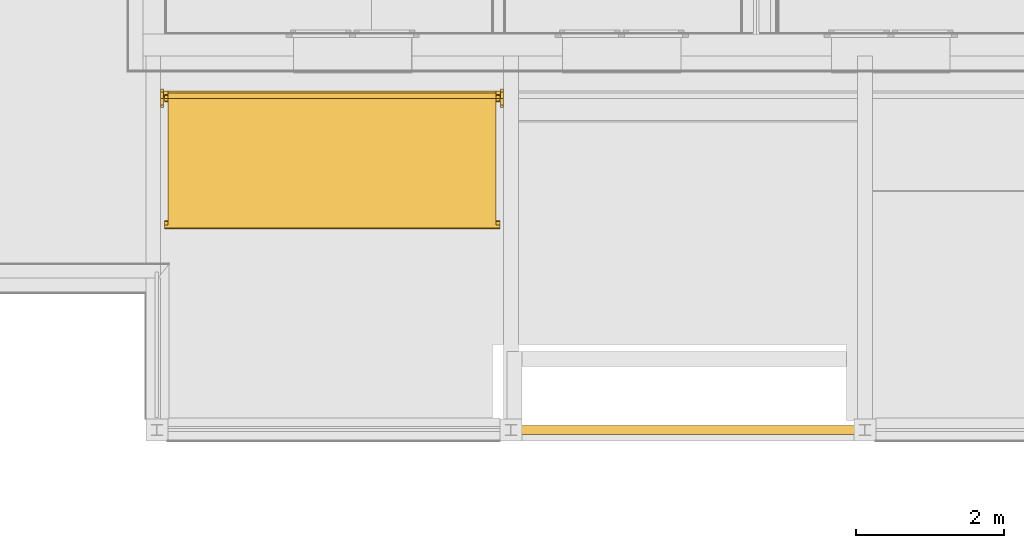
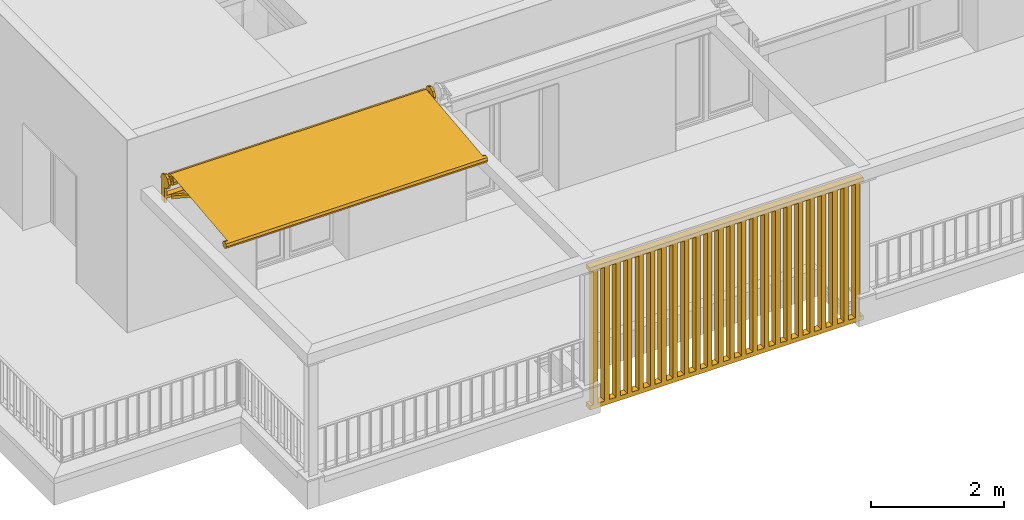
# One storey, part 22 of 36: 1 railing, 1 shading device.
"""IFC4 building model written with IfcOpenShell, lengths in millimetres."""

from ifc_helpers import new_model, entity, si_unit, converted_unit, derived_unit, direction, frame, origin_with_axes, place, context, subcontext, project, spatial, polygons, material, constituent, constituent_set, type_object, element, save


model = new_model("IFC4")

# Units and contexts
model_context = context("Model", 3, precision=0.01, world=origin_with_axes(), true_north=direction((0.0, 1.0)))
body_context = subcontext(model_context, "Body", "Model", "MODEL_VIEW")
ifc_project = project(units=[si_unit("LENGTHUNIT", "METRE", prefix="MILLI"), si_unit("AREAUNIT", "SQUARE_METRE"), si_unit("VOLUMEUNIT", "CUBIC_METRE"), converted_unit("PLANEANGLEUNIT", "DEGREE", entity("IfcPlaneAngleMeasure", 0.0174532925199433), si_unit("PLANEANGLEUNIT", "RADIAN"), dimensions=[0, 0, 0, 0, 0, 0, 0]), converted_unit("TIMEUNIT", "Year", entity("IfcTimeMeasure", 31557600.0), si_unit("TIMEUNIT", "SECOND"), dimensions=[0, 0, 1, 0, 0, 0, 0]), si_unit("MASSUNIT", "GRAM", prefix="KILO"), si_unit("THERMODYNAMICTEMPERATUREUNIT", "DEGREE_CELSIUS"), si_unit("LUMINOUSINTENSITYUNIT", "LUMEN"), si_unit("ENERGYUNIT", "JOULE", prefix="MEGA"), derived_unit("THERMALCONDUCTANCEUNIT", [(si_unit("POWERUNIT", "WATT"), 1), (si_unit("LENGTHUNIT", "METRE"), -1), (si_unit("THERMODYNAMICTEMPERATUREUNIT", "KELVIN"), -1)]), derived_unit("SPECIFICHEATCAPACITYUNIT", [(si_unit("ENERGYUNIT", "JOULE"), 1), (si_unit("MASSUNIT", "GRAM", prefix="KILO"), -1), (si_unit("THERMODYNAMICTEMPERATUREUNIT", "KELVIN"), -1)]), derived_unit("MASSDENSITYUNIT", [(si_unit("MASSUNIT", "GRAM", prefix="KILO"), 1), (si_unit("VOLUMEUNIT", "CUBIC_METRE"), -1)])], contexts=[model_context])

# Site, building, storey
site_placement = place(None, origin_with_axes())
site = spatial("IfcSite", under=ifc_project, at=site_placement, Name="Gelände", CompositionType="ELEMENT")
building_placement = place(site_placement, origin_with_axes())
building = spatial("IfcBuilding", under=site, at=building_placement, Name="Gebäude", CompositionType="ELEMENT")
storey_placement = place(building_placement, frame((0.0, 0.0, 8700.0), z_axis=(0.0, 0.0, 1.0), x_axis=(1.0, 0.0, 0.0)))
storey = spatial("IfcBuildingStorey", under=building, at=storey_placement, Name="Attika", CompositionType="ELEMENT", Elevation=8700.0)

# Railing
ifc_material = material(Name="Vollholzwerkstoff")
ifc_constituent_1 = constituent(ifc_material, Name="Vollholzwerkstoff 1")
ifc_constituent_2 = constituent(ifc_material, Name="Vollholzwerkstoff 2")
ifc_constituent_3 = constituent(ifc_material, Name="Vollholzwerkstoff 3")
ifc_constituent_4 = constituent(ifc_material, Name="Vollholzwerkstoff 4")
ifc_constituent_5 = constituent(ifc_material, Name="Vollholzwerkstoff 5")
ifc_constituent_6 = constituent(ifc_material, Name="Vollholzwerkstoff 6")
ifc_constituent_7 = constituent(ifc_material, Name="Vollholzwerkstoff 7")
ifc_constituent_8 = constituent(ifc_material, Name="Vollholzwerkstoff 8")
ifc_constituent_9 = constituent(ifc_material, Name="Vollholzwerkstoff 9")
ifc_constituent_10 = constituent(ifc_material, Name="Vollholzwerkstoff 10")
ifc_constituent_11 = constituent(ifc_material, Name="Vollholzwerkstoff 11")
ifc_constituent_12 = constituent(ifc_material, Name="Vollholzwerkstoff 12")
ifc_constituent_13 = constituent(ifc_material, Name="Vollholzwerkstoff 13")
ifc_constituent_14 = constituent(ifc_material, Name="Vollholzwerkstoff 14")
ifc_constituent_15 = constituent(ifc_material, Name="Vollholzwerkstoff 15")
ifc_constituent_16 = constituent(ifc_material, Name="Vollholzwerkstoff 16")
ifc_constituent_17 = constituent(ifc_material, Name="Vollholzwerkstoff 17")
ifc_constituent_18 = constituent(ifc_material, Name="Vollholzwerkstoff 18")
ifc_constituent_19 = constituent(ifc_material, Name="Vollholzwerkstoff 19")
ifc_constituent_20 = constituent(ifc_material, Name="Vollholzwerkstoff 20")
ifc_constituent_21 = constituent(ifc_material, Name="Vollholzwerkstoff 21")
ifc_constituent_22 = constituent(ifc_material, Name="Vollholzwerkstoff 22")
ifc_constituent_23 = constituent(ifc_material, Name="Vollholzwerkstoff 23")
ifc_constituent_24 = constituent(ifc_material, Name="Vollholzwerkstoff 24")
ifc_constituent_25 = constituent(ifc_material, Name="Vollholzwerkstoff 25")
ifc_constituent_26 = constituent(ifc_material, Name="Vollholzwerkstoff 26")
ifc_constituent_set = constituent_set(constituents=[ifc_constituent_1, ifc_constituent_2, ifc_constituent_3, ifc_constituent_4, ifc_constituent_5, ifc_constituent_6, ifc_constituent_7, ifc_constituent_8, ifc_constituent_9, ifc_constituent_10, ifc_constituent_11, ifc_constituent_12, ifc_constituent_13, ifc_constituent_14, ifc_constituent_15, ifc_constituent_16, ifc_constituent_17, ifc_constituent_18, ifc_constituent_19, ifc_constituent_20, ifc_constituent_21, ifc_constituent_22, ifc_constituent_23, ifc_constituent_24, ifc_constituent_25, ifc_constituent_26])
railing_type = type_object("IfcRailingType", Name="Geländerart", PredefinedType="NOTDEFINED")
railing_placement = place(storey_placement, frame((996.5363564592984, 21097.59674077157, 74.99999999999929), z_axis=(0.0, 0.0, 1.0), x_axis=(1.0, 0.0, 0.0)))
element("IfcRailing", 1, at=railing_placement, inside=storey, type_object=railing_type, material=ifc_constituent_set, Name="Geländer-001", PredefinedType="NOTDEFINED", context=body_context, shape_type="Tessellation", body=[
    polygons([(139.0594620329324, -59.99999999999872, 2574.999999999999), (139.0594620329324, -59.99999999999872, 2494.999999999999), (4889.859462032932, -59.99999999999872, 2494.999999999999), (4889.859462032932, -59.99999999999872, 2574.999999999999), (139.0594620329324, 59.99999999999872, 2574.999999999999), (139.0594620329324, 59.99999999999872, 2494.999999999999), (4889.859462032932, 59.99999999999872, 2494.999999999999), (4889.859462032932, 59.99999999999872, 2574.999999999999)], [[[1, 2, 3, 4]], [[1, 5, 6, 2]], [[2, 6, 7, 3]], [[4, 3, 7, 8]], [[5, 1, 4, 8]], [[6, 5, 8, 7]]], closed=True),
    polygons([(139.0594620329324, -59.99999999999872, 39.99999999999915), (139.0594620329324, -59.99999999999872, -39.99999999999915), (4889.859462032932, -59.99999999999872, -39.99999999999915), (4889.859462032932, -59.99999999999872, 39.99999999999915), (139.0594620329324, 59.99999999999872, 39.99999999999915), (139.0594620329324, 59.99999999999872, -39.99999999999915), (4889.859462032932, 59.99999999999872, -39.99999999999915), (4889.859462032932, 59.99999999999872, 39.99999999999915)], [[[1, 2, 3, 4]], [[1, 5, 6, 2]], [[2, 6, 7, 3]], [[4, 3, 7, 8]], [[5, 1, 4, 8]], [[6, 5, 8, 7]]], closed=True),
    polygons([(277.0914620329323, -59.99999999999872, 39.99999999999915), (277.0914620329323, 59.99999999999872, 39.99999999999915), (277.0914620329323, 59.99999999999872, 2494.999999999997), (277.0914620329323, -59.99999999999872, 2494.999999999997), (197.0914620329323, -59.99999999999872, 39.99999999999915), (197.0914620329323, 59.99999999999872, 39.99999999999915), (197.0914620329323, 59.99999999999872, 2494.999999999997), (197.0914620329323, -59.99999999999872, 2494.999999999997)], [[[1, 2, 3, 4]], [[1, 5, 6, 2]], [[2, 6, 7, 3]], [[4, 3, 7, 8]], [[5, 1, 4, 8]], [[6, 5, 8, 7]]], closed=True),
    polygons([(475.1234620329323, -59.99999999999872, 39.99999999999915), (475.1234620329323, 59.99999999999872, 39.99999999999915), (475.1234620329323, 59.99999999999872, 2494.999999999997), (475.1234620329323, -59.99999999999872, 2494.999999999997), (395.1234620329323, -59.99999999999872, 39.99999999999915), (395.1234620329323, 59.99999999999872, 39.99999999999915), (395.1234620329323, 59.99999999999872, 2494.999999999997), (395.1234620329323, -59.99999999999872, 2494.999999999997)], [[[1, 2, 3, 4]], [[1, 5, 6, 2]], [[2, 6, 7, 3]], [[4, 3, 7, 8]], [[5, 1, 4, 8]], [[6, 5, 8, 7]]], closed=True),
    polygons([(673.1554620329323, -59.99999999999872, 39.99999999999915), (673.1554620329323, 59.99999999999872, 39.99999999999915), (673.1554620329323, 59.99999999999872, 2494.999999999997), (673.1554620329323, -59.99999999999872, 2494.999999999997), (593.1554620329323, -59.99999999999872, 39.99999999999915), (593.1554620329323, 59.99999999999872, 39.99999999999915), (593.1554620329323, 59.99999999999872, 2494.999999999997), (593.1554620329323, -59.99999999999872, 2494.999999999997)], [[[1, 2, 3, 4]], [[1, 5, 6, 2]], [[2, 6, 7, 3]], [[4, 3, 7, 8]], [[5, 1, 4, 8]], [[6, 5, 8, 7]]], closed=True),
    polygons([(871.1874620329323, -59.99999999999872, 39.99999999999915), (871.1874620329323, 59.99999999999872, 39.99999999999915), (871.1874620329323, 59.99999999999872, 2494.999999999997), (871.1874620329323, -59.99999999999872, 2494.999999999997), (791.1874620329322, -59.99999999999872, 39.99999999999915), (791.1874620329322, 59.99999999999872, 39.99999999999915), (791.1874620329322, 59.99999999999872, 2494.999999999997), (791.1874620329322, -59.99999999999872, 2494.999999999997)], [[[1, 2, 3, 4]], [[1, 5, 6, 2]], [[2, 6, 7, 3]], [[4, 3, 7, 8]], [[5, 1, 4, 8]], [[6, 5, 8, 7]]], closed=True),
    polygons([(1069.219462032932, -59.99999999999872, 39.99999999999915), (1069.219462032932, 59.99999999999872, 39.99999999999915), (1069.219462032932, 59.99999999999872, 2494.999999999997), (1069.219462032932, -59.99999999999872, 2494.999999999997), (989.2194620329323, -59.99999999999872, 39.99999999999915), (989.2194620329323, 59.99999999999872, 39.99999999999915), (989.2194620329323, 59.99999999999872, 2494.999999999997), (989.2194620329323, -59.99999999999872, 2494.999999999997)], [[[1, 2, 3, 4]], [[1, 5, 6, 2]], [[2, 6, 7, 3]], [[4, 3, 7, 8]], [[5, 1, 4, 8]], [[6, 5, 8, 7]]], closed=True),
    polygons([(1267.251462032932, -59.99999999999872, 39.99999999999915), (1267.251462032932, 59.99999999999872, 39.99999999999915), (1267.251462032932, 59.99999999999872, 2494.999999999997), (1267.251462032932, -59.99999999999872, 2494.999999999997), (1187.251462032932, -59.99999999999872, 39.99999999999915), (1187.251462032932, 59.99999999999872, 39.99999999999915), (1187.251462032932, 59.99999999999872, 2494.999999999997), (1187.251462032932, -59.99999999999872, 2494.999999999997)], [[[1, 2, 3, 4]], [[1, 5, 6, 2]], [[2, 6, 7, 3]], [[4, 3, 7, 8]], [[5, 1, 4, 8]], [[6, 5, 8, 7]]], closed=True),
    polygons([(1465.283462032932, -59.99999999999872, 39.99999999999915), (1465.283462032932, 59.99999999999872, 39.99999999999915), (1465.283462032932, 59.99999999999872, 2494.999999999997), (1465.283462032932, -59.99999999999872, 2494.999999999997), (1385.283462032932, -59.99999999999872, 39.99999999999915), (1385.283462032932, 59.99999999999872, 39.99999999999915), (1385.283462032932, 59.99999999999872, 2494.999999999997), (1385.283462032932, -59.99999999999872, 2494.999999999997)], [[[1, 2, 3, 4]], [[1, 5, 6, 2]], [[2, 6, 7, 3]], [[4, 3, 7, 8]], [[5, 1, 4, 8]], [[6, 5, 8, 7]]], closed=True),
    polygons([(1663.315462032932, -59.99999999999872, 39.99999999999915), (1663.315462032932, 59.99999999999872, 39.99999999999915), (1663.315462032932, 59.99999999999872, 2494.999999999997), (1663.315462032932, -59.99999999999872, 2494.999999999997), (1583.315462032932, -59.99999999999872, 39.99999999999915), (1583.315462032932, 59.99999999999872, 39.99999999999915), (1583.315462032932, 59.99999999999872, 2494.999999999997), (1583.315462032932, -59.99999999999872, 2494.999999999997)], [[[1, 2, 3, 4]], [[1, 5, 6, 2]], [[2, 6, 7, 3]], [[4, 3, 7, 8]], [[5, 1, 4, 8]], [[6, 5, 8, 7]]], closed=True),
    polygons([(1861.347462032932, -59.99999999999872, 39.99999999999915), (1861.347462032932, 59.99999999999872, 39.99999999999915), (1861.347462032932, 59.99999999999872, 2494.999999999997), (1861.347462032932, -59.99999999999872, 2494.999999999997), (1781.347462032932, -59.99999999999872, 39.99999999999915), (1781.347462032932, 59.99999999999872, 39.99999999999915), (1781.347462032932, 59.99999999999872, 2494.999999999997), (1781.347462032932, -59.99999999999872, 2494.999999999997)], [[[1, 2, 3, 4]], [[1, 5, 6, 2]], [[2, 6, 7, 3]], [[4, 3, 7, 8]], [[5, 1, 4, 8]], [[6, 5, 8, 7]]], closed=True),
    polygons([(2059.379462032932, -59.99999999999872, 39.99999999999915), (2059.379462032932, 59.99999999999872, 39.99999999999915), (2059.379462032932, 59.99999999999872, 2494.999999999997), (2059.379462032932, -59.99999999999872, 2494.999999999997), (1979.379462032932, -59.99999999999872, 39.99999999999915), (1979.379462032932, 59.99999999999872, 39.99999999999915), (1979.379462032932, 59.99999999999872, 2494.999999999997), (1979.379462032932, -59.99999999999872, 2494.999999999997)], [[[1, 2, 3, 4]], [[1, 5, 6, 2]], [[2, 6, 7, 3]], [[4, 3, 7, 8]], [[5, 1, 4, 8]], [[6, 5, 8, 7]]], closed=True),
    polygons([(2257.411462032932, -59.99999999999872, 39.99999999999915), (2257.411462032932, 59.99999999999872, 39.99999999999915), (2257.411462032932, 59.99999999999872, 2494.999999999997), (2257.411462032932, -59.99999999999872, 2494.999999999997), (2177.411462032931, -59.99999999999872, 39.99999999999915), (2177.411462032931, 59.99999999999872, 39.99999999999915), (2177.411462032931, 59.99999999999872, 2494.999999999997), (2177.411462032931, -59.99999999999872, 2494.999999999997)], [[[1, 2, 3, 4]], [[1, 5, 6, 2]], [[2, 6, 7, 3]], [[4, 3, 7, 8]], [[5, 1, 4, 8]], [[6, 5, 8, 7]]], closed=True),
    polygons([(2455.443462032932, -59.99999999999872, 39.99999999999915), (2455.443462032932, 59.99999999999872, 39.99999999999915), (2455.443462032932, 59.99999999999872, 2494.999999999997), (2455.443462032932, -59.99999999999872, 2494.999999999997), (2375.443462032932, -59.99999999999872, 39.99999999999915), (2375.443462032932, 59.99999999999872, 39.99999999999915), (2375.443462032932, 59.99999999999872, 2494.999999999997), (2375.443462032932, -59.99999999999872, 2494.999999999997)], [[[1, 2, 3, 4]], [[1, 5, 6, 2]], [[2, 6, 7, 3]], [[4, 3, 7, 8]], [[5, 1, 4, 8]], [[6, 5, 8, 7]]], closed=True),
    polygons([(2653.475462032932, -59.99999999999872, 39.99999999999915), (2653.475462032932, 59.99999999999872, 39.99999999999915), (2653.475462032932, 59.99999999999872, 2494.999999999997), (2653.475462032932, -59.99999999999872, 2494.999999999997), (2573.475462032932, -59.99999999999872, 39.99999999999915), (2573.475462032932, 59.99999999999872, 39.99999999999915), (2573.475462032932, 59.99999999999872, 2494.999999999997), (2573.475462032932, -59.99999999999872, 2494.999999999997)], [[[1, 2, 3, 4]], [[1, 5, 6, 2]], [[2, 6, 7, 3]], [[4, 3, 7, 8]], [[5, 1, 4, 8]], [[6, 5, 8, 7]]], closed=True),
    polygons([(2851.507462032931, -59.99999999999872, 39.99999999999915), (2851.507462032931, 59.99999999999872, 39.99999999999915), (2851.507462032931, 59.99999999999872, 2494.999999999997), (2851.507462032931, -59.99999999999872, 2494.999999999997), (2771.507462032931, -59.99999999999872, 39.99999999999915), (2771.507462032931, 59.99999999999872, 39.99999999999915), (2771.507462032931, 59.99999999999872, 2494.999999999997), (2771.507462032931, -59.99999999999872, 2494.999999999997)], [[[1, 2, 3, 4]], [[1, 5, 6, 2]], [[2, 6, 7, 3]], [[4, 3, 7, 8]], [[5, 1, 4, 8]], [[6, 5, 8, 7]]], closed=True),
    polygons([(3049.539462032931, -59.99999999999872, 39.99999999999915), (3049.539462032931, 59.99999999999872, 39.99999999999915), (3049.539462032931, 59.99999999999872, 2494.999999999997), (3049.539462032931, -59.99999999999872, 2494.999999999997), (2969.539462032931, -59.99999999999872, 39.99999999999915), (2969.539462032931, 59.99999999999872, 39.99999999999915), (2969.539462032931, 59.99999999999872, 2494.999999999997), (2969.539462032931, -59.99999999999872, 2494.999999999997)], [[[1, 2, 3, 4]], [[1, 5, 6, 2]], [[2, 6, 7, 3]], [[4, 3, 7, 8]], [[5, 1, 4, 8]], [[6, 5, 8, 7]]], closed=True),
    polygons([(3247.571462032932, -59.99999999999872, 39.99999999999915), (3247.571462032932, 59.99999999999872, 39.99999999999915), (3247.571462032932, 59.99999999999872, 2494.999999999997), (3247.571462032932, -59.99999999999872, 2494.999999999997), (3167.571462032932, -59.99999999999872, 39.99999999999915), (3167.571462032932, 59.99999999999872, 39.99999999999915), (3167.571462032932, 59.99999999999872, 2494.999999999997), (3167.571462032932, -59.99999999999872, 2494.999999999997)], [[[1, 2, 3, 4]], [[1, 5, 6, 2]], [[2, 6, 7, 3]], [[4, 3, 7, 8]], [[5, 1, 4, 8]], [[6, 5, 8, 7]]], closed=True),
    polygons([(3445.603462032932, -59.99999999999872, 39.99999999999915), (3445.603462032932, 59.99999999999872, 39.99999999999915), (3445.603462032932, 59.99999999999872, 2494.999999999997), (3445.603462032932, -59.99999999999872, 2494.999999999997), (3365.603462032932, -59.99999999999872, 39.99999999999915), (3365.603462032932, 59.99999999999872, 39.99999999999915), (3365.603462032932, 59.99999999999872, 2494.999999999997), (3365.603462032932, -59.99999999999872, 2494.999999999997)], [[[1, 2, 3, 4]], [[1, 5, 6, 2]], [[2, 6, 7, 3]], [[4, 3, 7, 8]], [[5, 1, 4, 8]], [[6, 5, 8, 7]]], closed=True),
    polygons([(3643.635462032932, -59.99999999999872, 39.99999999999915), (3643.635462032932, 59.99999999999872, 39.99999999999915), (3643.635462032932, 59.99999999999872, 2494.999999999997), (3643.635462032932, -59.99999999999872, 2494.999999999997), (3563.635462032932, -59.99999999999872, 39.99999999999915), (3563.635462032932, 59.99999999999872, 39.99999999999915), (3563.635462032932, 59.99999999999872, 2494.999999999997), (3563.635462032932, -59.99999999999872, 2494.999999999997)], [[[1, 2, 3, 4]], [[1, 5, 6, 2]], [[2, 6, 7, 3]], [[4, 3, 7, 8]], [[5, 1, 4, 8]], [[6, 5, 8, 7]]], closed=True),
    polygons([(3841.667462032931, -59.99999999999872, 39.99999999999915), (3841.667462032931, 59.99999999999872, 39.99999999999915), (3841.667462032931, 59.99999999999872, 2494.999999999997), (3841.667462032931, -59.99999999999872, 2494.999999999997), (3761.667462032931, -59.99999999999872, 39.99999999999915), (3761.667462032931, 59.99999999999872, 39.99999999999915), (3761.667462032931, 59.99999999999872, 2494.999999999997), (3761.667462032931, -59.99999999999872, 2494.999999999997)], [[[1, 2, 3, 4]], [[1, 5, 6, 2]], [[2, 6, 7, 3]], [[4, 3, 7, 8]], [[5, 1, 4, 8]], [[6, 5, 8, 7]]], closed=True),
    polygons([(4039.699462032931, -59.99999999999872, 39.99999999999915), (4039.699462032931, 59.99999999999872, 39.99999999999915), (4039.699462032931, 59.99999999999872, 2494.999999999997), (4039.699462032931, -59.99999999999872, 2494.999999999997), (3959.699462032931, -59.99999999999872, 39.99999999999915), (3959.699462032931, 59.99999999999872, 39.99999999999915), (3959.699462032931, 59.99999999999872, 2494.999999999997), (3959.699462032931, -59.99999999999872, 2494.999999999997)], [[[1, 2, 3, 4]], [[1, 5, 6, 2]], [[2, 6, 7, 3]], [[4, 3, 7, 8]], [[5, 1, 4, 8]], [[6, 5, 8, 7]]], closed=True),
    polygons([(4237.731462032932, -59.99999999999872, 39.99999999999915), (4237.731462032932, 59.99999999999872, 39.99999999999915), (4237.731462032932, 59.99999999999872, 2494.999999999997), (4237.731462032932, -59.99999999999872, 2494.999999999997), (4157.731462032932, -59.99999999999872, 39.99999999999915), (4157.731462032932, 59.99999999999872, 39.99999999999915), (4157.731462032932, 59.99999999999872, 2494.999999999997), (4157.731462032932, -59.99999999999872, 2494.999999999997)], [[[1, 2, 3, 4]], [[1, 5, 6, 2]], [[2, 6, 7, 3]], [[4, 3, 7, 8]], [[5, 1, 4, 8]], [[6, 5, 8, 7]]], closed=True),
    polygons([(4435.763462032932, -59.99999999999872, 39.99999999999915), (4435.763462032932, 59.99999999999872, 39.99999999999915), (4435.763462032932, 59.99999999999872, 2494.999999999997), (4435.763462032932, -59.99999999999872, 2494.999999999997), (4355.763462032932, -59.99999999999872, 39.99999999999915), (4355.763462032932, 59.99999999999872, 39.99999999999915), (4355.763462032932, 59.99999999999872, 2494.999999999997), (4355.763462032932, -59.99999999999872, 2494.999999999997)], [[[1, 2, 3, 4]], [[1, 5, 6, 2]], [[2, 6, 7, 3]], [[4, 3, 7, 8]], [[5, 1, 4, 8]], [[6, 5, 8, 7]]], closed=True),
    polygons([(4633.795462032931, -59.99999999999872, 39.99999999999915), (4633.795462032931, 59.99999999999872, 39.99999999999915), (4633.795462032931, 59.99999999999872, 2494.999999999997), (4633.795462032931, -59.99999999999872, 2494.999999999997), (4553.795462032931, -59.99999999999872, 39.99999999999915), (4553.795462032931, 59.99999999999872, 39.99999999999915), (4553.795462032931, 59.99999999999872, 2494.999999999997), (4553.795462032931, -59.99999999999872, 2494.999999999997)], [[[1, 2, 3, 4]], [[1, 5, 6, 2]], [[2, 6, 7, 3]], [[4, 3, 7, 8]], [[5, 1, 4, 8]], [[6, 5, 8, 7]]], closed=True),
    polygons([(4831.82746203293, -59.99999999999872, 39.99999999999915), (4831.82746203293, 59.99999999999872, 39.99999999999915), (4831.82746203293, 59.99999999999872, 2494.999999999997), (4831.82746203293, -59.99999999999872, 2494.999999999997), (4751.82746203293, -59.99999999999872, 39.99999999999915), (4751.82746203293, 59.99999999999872, 39.99999999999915), (4751.82746203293, 59.99999999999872, 2494.999999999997), (4751.82746203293, -59.99999999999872, 2494.999999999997)], [[[1, 2, 3, 4]], [[1, 5, 6, 2]], [[2, 6, 7, 3]], [[4, 3, 7, 8]], [[5, 1, 4, 8]], [[6, 5, 8, 7]]], closed=True),
])

# Shading device
shading_device_type = type_object("IfcShadingDeviceType", Name="Sonnensegel 27", PredefinedType="NOTDEFINED")
shading_device_placement = place(storey_placement, frame((-3625.204181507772, 25686.08652644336, 2850.0), z_axis=(0.0, 0.0, 1.0), x_axis=(1.0, 0.0, 0.0)))
element("IfcShadingDevice", 2, at=shading_device_placement, inside=storey, type_object=shading_device_type, Name="Möbel-018", PredefinedType="NOTDEFINED", context=body_context, shape_type="Tessellation", body=[
    polygons([(4590.799999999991, -135.3553390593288, 335.3553390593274), (50.0, -135.3553390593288, 335.3553390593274), (50.0, -150.0000000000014, 300.0), (4590.799999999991, -150.0000000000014, 300.0), (4590.799999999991, -100.0000000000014, 350.0), (50.0, -100.0000000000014, 350.0), (50.0, -64.64466094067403, 335.3553390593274), (50.0, -50.00000000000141, 300.0), (50.0, -64.64466094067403, 264.6446609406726), (50.0, -100.0000000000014, 250.0), (50.0, -135.3553390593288, 264.6446609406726), (4590.799999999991, -135.3553390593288, 264.6446609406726), (4590.799999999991, -100.0000000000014, 250.0), (4590.799999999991, -64.64466094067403, 264.6446609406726), (4590.799999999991, -50.00000000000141, 300.0), (4590.799999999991, -64.64466094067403, 335.3553390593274)], [[[1, 2, 3, 4]], [[5, 6, 2, 1]], [[3, 2, 6, 7, 8, 9, 10, 11]], [[4, 3, 11, 12]], [[4, 12, 13, 14, 15, 16, 5, 1]], [[16, 7, 6, 5]], [[15, 8, 7, 16]], [[14, 9, 8, 15]], [[13, 10, 9, 14]], [[12, 11, 10, 13]]], closed=True),
    polygons([(4540.799999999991, -170.7106781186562, 370.7106781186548), (100.0, -170.7106781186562, 370.7106781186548), (100.0, -200.0000000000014, 300.0), (4540.799999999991, -200.0000000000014, 300.0), (4540.799999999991, -100.0000000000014, 400.0), (100.0, -100.0000000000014, 400.0), (100.0, -29.28932188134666, 370.7106781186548), (100.0, 0.0, 300.0), (100.0, -29.28932188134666, 229.2893218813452), (100.0, -100.0000000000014, 199.9999999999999), (100.0, -170.7106781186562, 229.2893218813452), (4540.799999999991, -170.7106781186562, 229.2893218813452), (4540.799999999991, -100.0000000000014, 199.9999999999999), (4540.799999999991, -29.28932188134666, 229.2893218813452), (4540.799999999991, 0.0, 300.0), (4540.799999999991, -29.28932188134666, 370.7106781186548)], [[[1, 2, 3, 4]], [[5, 6, 2, 1]], [[3, 2, 6, 7, 8, 9, 10, 11]], [[4, 3, 11, 12]], [[4, 12, 13, 14, 15, 16, 5, 1]], [[16, 7, 6, 5]], [[15, 8, 7, 16]], [[14, 9, 8, 15]], [[13, 10, 9, 14]], [[12, 11, 10, 13]]], closed=True),
    polygons([(4540.799999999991, -111.0522195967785, 399.3873656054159), (4540.799999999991, -1813.869803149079, 210.0281472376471), (100.0, -1813.869803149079, 210.0281472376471), (100.0, -111.0522195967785, 399.3873656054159)], [[[1, 2, 3, 4]]], closed=False),
    polygons([(50.0, -1769.106750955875, 107.8338445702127), (50.00000000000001, -1811.533157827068, 90.26025144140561), (50.0, -1853.95956469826, 107.8338445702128), (50.0, -1871.533157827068, 150.2602514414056), (50.0, -1853.95956469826, 192.6866583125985), (49.99999999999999, -1811.533157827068, 210.2602514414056), (50.0, -1769.106750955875, 192.6866583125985), (50.0, -1751.533157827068, 150.2602514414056), (4590.799999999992, -1769.106750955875, 107.833844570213), (4590.799999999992, -1811.533157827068, 90.2602514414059), (4590.799999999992, -1853.95956469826, 107.833844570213), (4590.799999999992, -1871.533157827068, 150.2602514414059), (4590.799999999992, -1853.95956469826, 192.6866583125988), (4590.799999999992, -1811.533157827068, 210.2602514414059), (4590.799999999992, -1769.106750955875, 192.6866583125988), (4590.799999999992, -1751.533157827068, 150.2602514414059)], [[[1, 2, 3, 4, 5, 6, 7, 8]], [[1, 9, 10, 2]], [[2, 10, 11, 3]], [[3, 11, 12, 4]], [[4, 12, 13, 5]], [[5, 13, 14, 6]], [[6, 14, 15, 7]], [[7, 15, 16, 8]], [[8, 16, 9, 1]], [[9, 16, 15, 14, 13, 12, 11, 10]]], closed=True),
    polygons([(4600.799999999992, 0.0, -25.0), (4600.799999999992, -100.0000000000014, -25.0), (40.0, -100.0000000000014, -25.0), (40.0, 0.0, -25.0), (4600.799999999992, 0.0, 25.0), (4600.799999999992, -100.0000000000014, 25.0), (40.0, -100.0000000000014, 25.0), (40.0, 0.0, 25.0)], [[[1, 2, 3, 4]], [[1, 5, 6, 2]], [[2, 6, 7, 3]], [[3, 7, 8, 4]], [[4, 8, 5, 1]], [[8, 7, 6, 5]]], closed=True),
    polygons([(4551.88129748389, -147.3177471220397, 27.03051950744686), (2875.019639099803, -973.084326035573, 102.1606452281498), (2875.019639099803, -977.6147278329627, 52.3663136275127), (4551.88129748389, -151.8481489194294, -22.76381209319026), (4529.718702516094, -102.6822528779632, 22.96948049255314), (2852.857044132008, -928.4488317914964, 98.09960621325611), (2852.857044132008, -932.9792335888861, 48.30527461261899), (4529.718702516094, -107.2126546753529, -26.82485110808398)], [[[1, 2, 3, 4]], [[5, 6, 2, 1]], [[2, 6, 7, 3]], [[4, 3, 7, 8]], [[1, 4, 8, 5]], [[8, 7, 6, 5]]], closed=True),
    polygons([(111.081297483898, -102.6822528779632, 22.96948049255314), (1787.942955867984, -928.4488317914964, 98.09960621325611), (1787.942955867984, -932.9792335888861, 48.30527461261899), (111.081297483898, -107.2126546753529, -26.82485110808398), (88.91870251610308, -147.3177471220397, 27.03051950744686), (1765.780360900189, -973.084326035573, 102.1606452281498), (1765.780360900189, -977.6147278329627, 52.3663136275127), (88.91870251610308, -151.8481489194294, -22.76381209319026)], [[[1, 2, 3, 4]], [[5, 6, 2, 1]], [[2, 6, 7, 3]], [[4, 3, 7, 8]], [[1, 4, 8, 5]], [[8, 7, 6, 5]]], closed=True),
    polygons([(1787.942955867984, -973.084326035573, 102.1606452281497), (111.0812974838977, -1798.850904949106, 177.2907709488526), (111.0812974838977, -1803.381306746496, 127.4964393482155), (1787.942955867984, -977.6147278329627, 52.36631362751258), (1765.780360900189, -928.4488317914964, 98.09960621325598), (88.9187025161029, -1754.21541070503, 173.2297319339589), (88.9187025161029, -1758.745812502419, 123.4354003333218), (1765.780360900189, -932.9792335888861, 48.30527461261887)], [[[1, 2, 3, 4]], [[5, 6, 2, 1]], [[2, 6, 7, 3]], [[4, 3, 7, 8]], [[1, 4, 8, 5]], [[8, 7, 6, 5]]], closed=True),
    polygons([(2875.019639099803, -928.4488317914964, 98.09960621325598), (4551.88129748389, -1754.21541070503, 173.2297319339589), (4551.88129748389, -1758.745812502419, 123.4354003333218), (2875.019639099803, -932.9792335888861, 48.30527461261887), (2852.857044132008, -973.084326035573, 102.1606452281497), (4529.718702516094, -1798.850904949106, 177.2907709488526), (4529.718702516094, -1803.381306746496, 127.4964393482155), (2852.857044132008, -977.6147278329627, 52.36631362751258)], [[[1, 2, 3, 4]], [[5, 6, 2, 1]], [[2, 6, 7, 3]], [[4, 3, 7, 8]], [[1, 4, 8, 5]], [[8, 7, 6, 5]]], closed=True),
    polygons([(0.0, -100.0000000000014, -100.0), (40.00000000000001, -100.0000000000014, -100.0), (39.99999999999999, -100.0000000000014, 175.0), (0.0, -100.0000000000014, 175.0), (0.0, 0.0, -100.0), (40.0, 0.0, -100.0), (39.99999999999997, 0.0, 300.0000000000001), (39.99999999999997, 24.99999999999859, 300.0000000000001), (39.99999999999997, -11.61165235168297, 388.3883476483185), (39.99999999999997, -100.0000000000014, 425.0000000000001), (39.99999999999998, -188.3883476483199, 388.3883476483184), (39.99999999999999, -225.0000000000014, 300.0000000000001), (39.99999999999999, -188.3883476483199, 211.6116523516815), (0.0, -188.3883476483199, 211.6116523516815), (0.0, -225.0000000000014, 300.0000000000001), (0.0, -188.3883476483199, 388.3883476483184), (0.0, -100.0000000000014, 425.0000000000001), (0.0, -11.61165235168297, 388.3883476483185), (0.0, 24.99999999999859, 300.0000000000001), (0.0, 0.0, 300.0000000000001)], [[[1, 2, 3, 4]], [[5, 6, 2, 1]], [[2, 6, 7, 8, 9, 10, 11, 12, 13, 3]], [[4, 3, 13, 14]], [[1, 4, 14, 15, 16, 17, 18, 19, 20, 5]], [[20, 7, 6, 5]], [[19, 8, 7, 20]], [[18, 9, 8, 19]], [[17, 10, 9, 18]], [[16, 11, 10, 17]], [[15, 12, 11, 16]], [[14, 13, 12, 15]]], closed=True),
    polygons([(4600.799999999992, -100.0000000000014, -100.0), (4640.799999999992, -100.0000000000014, -100.0), (4640.799999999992, -100.0000000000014, 175.0), (4600.799999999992, -100.0000000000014, 175.0), (4600.799999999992, 0.0, -100.0), (4640.799999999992, 0.0, -100.0), (4640.799999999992, 0.0, 300.0000000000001), (4640.799999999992, 24.99999999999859, 300.0000000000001), (4640.799999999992, -11.61165235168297, 388.3883476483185), (4640.799999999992, -100.0000000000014, 425.0000000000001), (4640.799999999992, -188.3883476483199, 388.3883476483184), (4640.799999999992, -225.0000000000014, 300.0000000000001), (4640.799999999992, -188.3883476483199, 211.6116523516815), (4600.799999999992, -188.3883476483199, 211.6116523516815), (4600.799999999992, -225.0000000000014, 300.0000000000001), (4600.799999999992, -188.3883476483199, 388.3883476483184), (4600.799999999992, -100.0000000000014, 425.0000000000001), (4600.799999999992, -11.61165235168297, 388.3883476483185), (4600.799999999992, 24.99999999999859, 300.0000000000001), (4600.799999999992, 0.0, 300.0000000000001)], [[[1, 2, 3, 4]], [[5, 6, 2, 1]], [[2, 6, 7, 8, 9, 10, 11, 12, 13, 3]], [[4, 3, 13, 14]], [[1, 4, 14, 15, 16, 17, 18, 19, 20, 5]], [[20, 7, 6, 5]], [[19, 8, 7, 20]], [[18, 9, 8, 19]], [[17, 10, 9, 18]], [[16, 11, 10, 17]], [[15, 12, 11, 16]], [[14, 13, 12, 15]]], closed=True),
])

save(model, "model.ifc")
